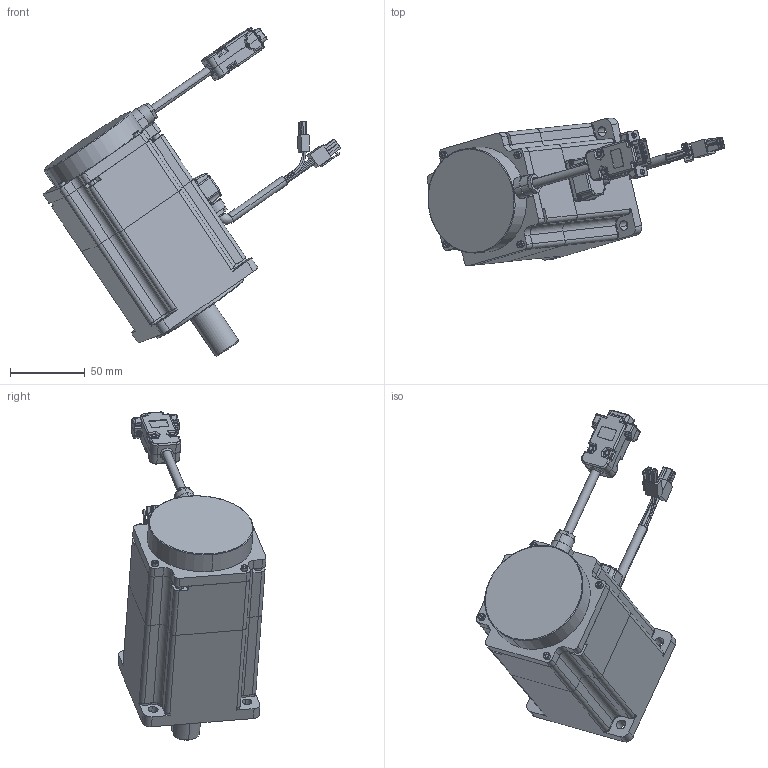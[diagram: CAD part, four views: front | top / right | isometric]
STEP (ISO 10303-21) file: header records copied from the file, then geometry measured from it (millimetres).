
FILE_DESCRIPTION (( 'STEP AP214' ), '1' );
FILE_NAME ('80BST-C02430Z.STEP', '2022-01-20T08:04:13', ( '' ), ( '' ), 'SwSTEP 2.0', 'SolidWorks 2020', '' );
FILE_SCHEMA (( 'AUTOMOTIVE_DESIGN' ));
Length unit declared in the file: millimetre
Products named in the file (30): 43782_10; 43782_13; 60揤盄; 43782_05; 4R; cross recessed small pan head screws gb_GB_CROSS_SCREWS_TYPE3 M2X5-5-N; 43782_03; 43782; DB9 in plastic case - cable; 43782_04; 43782_09; 晤鎢ん盄; 43782_11; 43782_06; hexagon socket head cap screws gb_GB_FASTENER_SCREWS_HSHCS M3X20-N; 43782_01; 2R; hexagon socket head cap screws gb_GB_FASTENER_SCREWS_HSHCS M2.5X10-N; 43782_02; 160BST-ZC; 80BST-C02430Z; 60BST晤鎢ん; 43782_08; 60ヶ傷; 43782_12; 60BST堤粣; 43782_07; 60BST惕掅; Plastika za DB9; 萇儂盄
Assembly tree (38 placements, depth 4):
  80BST-C02430Z
    60BST惕掅
    60BST晤鎢ん
    60BST堤粣
    60ヶ傷
    hexagon socket head cap screws gb_GB_FASTENER_SCREWS_HSHCS M2.5X10-N  x4
    hexagon socket head cap screws gb_GB_FASTENER_SCREWS_HSHCS M3X20-N  x4
    160BST-ZC
    60揤盄
    cross recessed small pan head screws gb_GB_CROSS_SCREWS_TYPE3 M2X5-5-N  x4
    晤鎢ん盄
    萇儂盄
    DB9 in plastic case - cable
      Plastika za DB9
      43782
        43782_13
        43782_12
        43782_11
        43782_10
        43782_09
        43782_08
        43782_07
        43782_06
        43782_05
        43782_04
        43782_03
        43782_02
        43782_01
    2R
    4R
Bounding box: 198.66 x 98.68 x 218.85 mm (x, y, z)
Volume: 687344.3 mm3; surface area: 108062.4 mm2
Topology: 46 solids, 46 shells, 1726 faces, 4347 edges, 2736 vertices
Faces by surface type: plane 816, cylinder 702, bspline 87, cone 77, torus 28, sphere 16
Entity records: 57203 total; most frequent: CARTESIAN_POINT 9652, DIRECTION 7817, ORIENTED_EDGE 7458, EDGE_CURVE 3729, AXIS2_PLACEMENT_3D 2803, VERTEX_POINT 2406, VECTOR 2211, LINE 2211
